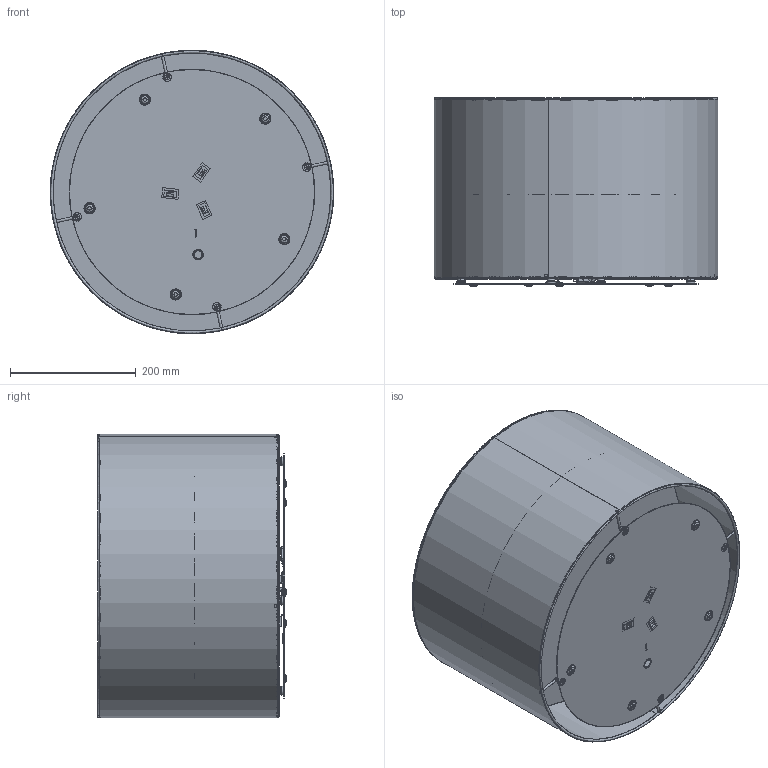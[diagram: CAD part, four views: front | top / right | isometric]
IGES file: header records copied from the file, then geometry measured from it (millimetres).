
Start section: SolidWorks IGES file using analytic representation for surfaces
Global section: file name: E:\....SOLID WORKS\...BORYS\KLOSZE KLIK KLIK\KLOSZE\z³o¿enia\KLOSZ 450 zlozenie.IGS; native system: SolidWorks 2016; preprocessor: SolidWorks 2016; author: DELL; date: 170419.135240; units: millimetre
Bounding box: 451 x 299.75 x 451 mm (x, y, z)
Surface area: 1669521.8 mm2 (no closed solid volume)
Topology: 0 solids, 0 shells, 964 faces, 10648 edges, 10613 vertices
Faces by surface type: bspline 564, revolution 400
